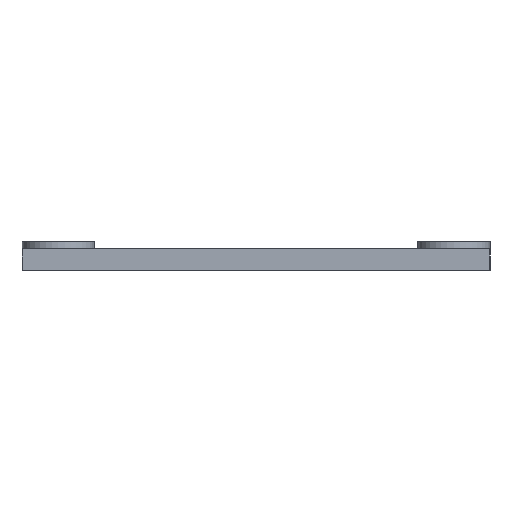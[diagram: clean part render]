
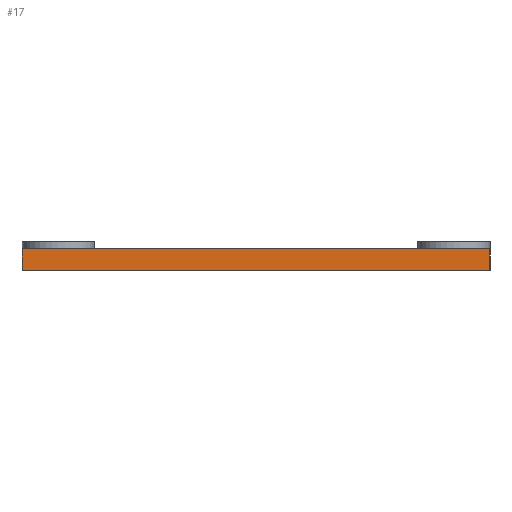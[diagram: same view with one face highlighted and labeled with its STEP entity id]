
A CAD part, left-side view. The second image highlights one B-rep face of the part: STEP entity #17.
In plain terms, the highlighted planar face has unit normal (-1, 0, 0).
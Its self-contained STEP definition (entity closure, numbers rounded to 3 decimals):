
#17 = ADVANCED_FACE('',(#18),#68,.F.);
#18 = FACE_BOUND('',#19,.F.);
#19 = EDGE_LOOP('',(#20,#30,#38,#46,#54,#62));
#20 = ORIENTED_EDGE('',*,*,#21,.F.);
#21 = EDGE_CURVE('',#22,#24,#26,.T.);
#22 = VERTEX_POINT('',#23);
#23 = CARTESIAN_POINT('',(0.,64.6,0.));
#24 = VERTEX_POINT('',#25);
#25 = CARTESIAN_POINT('',(0.,0.,0.));
#26 = LINE('',#27,#28);
#27 = CARTESIAN_POINT('',(0.,64.6,0.));
#28 = VECTOR('',#29,1.);
#29 = DIRECTION('',(0.,-1.,0.));
#30 = ORIENTED_EDGE('',*,*,#31,.T.);
#31 = EDGE_CURVE('',#22,#32,#34,.T.);
#32 = VERTEX_POINT('',#33);
#33 = CARTESIAN_POINT('',(0.,64.6,3.));
#34 = LINE('',#35,#36);
#35 = CARTESIAN_POINT('',(0.,64.6,0.));
#36 = VECTOR('',#37,1.);
#37 = DIRECTION('',(0.,0.,1.));
#38 = ORIENTED_EDGE('',*,*,#39,.T.);
#39 = EDGE_CURVE('',#32,#40,#42,.T.);
#40 = VERTEX_POINT('',#41);
#41 = CARTESIAN_POINT('',(0.,59.6,3.));
#42 = LINE('',#43,#44);
#43 = CARTESIAN_POINT('',(0.,64.6,3.));
#44 = VECTOR('',#45,1.);
#45 = DIRECTION('',(0.,-1.,0.));
#46 = ORIENTED_EDGE('',*,*,#47,.T.);
#47 = EDGE_CURVE('',#40,#48,#50,.T.);
#48 = VERTEX_POINT('',#49);
#49 = CARTESIAN_POINT('',(0.,5.,3.));
#50 = LINE('',#51,#52);
#51 = CARTESIAN_POINT('',(0.,64.6,3.));
#52 = VECTOR('',#53,1.);
#53 = DIRECTION('',(0.,-1.,0.));
#54 = ORIENTED_EDGE('',*,*,#55,.T.);
#55 = EDGE_CURVE('',#48,#56,#58,.T.);
#56 = VERTEX_POINT('',#57);
#57 = CARTESIAN_POINT('',(0.,0.,3.));
#58 = LINE('',#59,#60);
#59 = CARTESIAN_POINT('',(0.,64.6,3.));
#60 = VECTOR('',#61,1.);
#61 = DIRECTION('',(0.,-1.,0.));
#62 = ORIENTED_EDGE('',*,*,#63,.F.);
#63 = EDGE_CURVE('',#24,#56,#64,.T.);
#64 = LINE('',#65,#66);
#65 = CARTESIAN_POINT('',(0.,0.,0.));
#66 = VECTOR('',#67,1.);
#67 = DIRECTION('',(0.,0.,1.));
#68 = PLANE('',#69);
#69 = AXIS2_PLACEMENT_3D('',#70,#71,#72);
#70 = CARTESIAN_POINT('',(0.,64.6,0.));
#71 = DIRECTION('',(1.,0.,0.));
#72 = DIRECTION('',(0.,-1.,0.));
